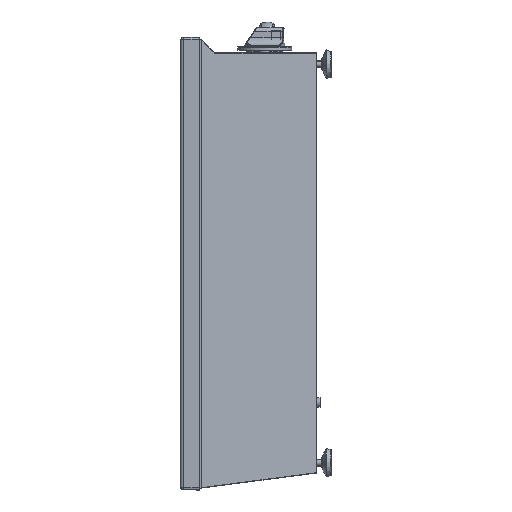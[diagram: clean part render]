
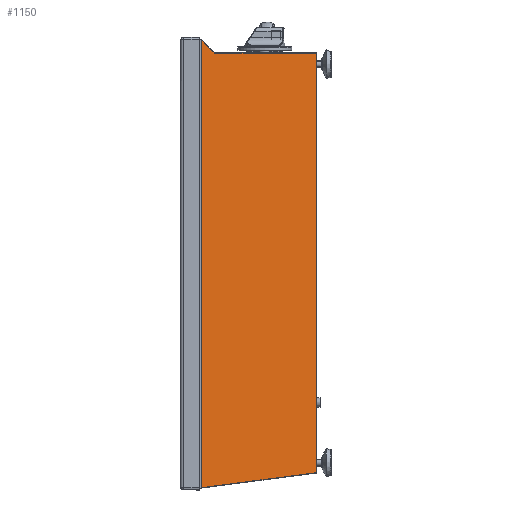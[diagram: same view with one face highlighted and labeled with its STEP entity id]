
A CAD part, left-side view. The second image highlights one B-rep face of the part: STEP entity #1150.
In plain terms, the highlighted planar face has unit normal (-0.992, -0.13, 0) by its records, which use the part's own axes.
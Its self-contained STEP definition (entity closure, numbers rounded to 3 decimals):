
#154 = CARTESIAN_POINT ( 'NONE',  ( -597.428, -24.545, 296.172 ) ) ;
#648 = CARTESIAN_POINT ( 'NONE',  ( -594.968, -43.308, 279. ) ) ;
#1150 = ADVANCED_FACE ( 'NONE', ( #7733 ), #34783, .F. ) ;
#1168 = CARTESIAN_POINT ( 'NONE',  ( -577.508, -176.437, -277.012 ) ) ;
#2639 = EDGE_CURVE ( 'NONE', #25813, #4653, #7100, .T. ) ;
#3945 = AXIS2_PLACEMENT_3D ( 'NONE', #18771, #5218, #21273 ) ;
#4653 = VERTEX_POINT ( 'NONE', #12017 ) ;
#4973 = CARTESIAN_POINT ( 'NONE',  ( -577.5, -176.5, 279. ) ) ;
#5174 = VECTOR ( 'NONE', #26218, 1000. ) ;
#5218 = DIRECTION ( 'NONE',  ( 0.992, 0.13, 0. ) ) ;
#5543 = CARTESIAN_POINT ( 'NONE',  ( -597.5, -24., 296.439 ) ) ;
#7100 = LINE ( 'NONE', #1168, #5174 ) ;
#7147 = VECTOR ( 'NONE', #29396, 1000. ) ;
#7164 = CARTESIAN_POINT ( 'NONE',  ( -597.449, -24.388, -296.953 ) ) ;
#7698 = DIRECTION ( 'NONE',  ( -0.13, 0.992, 0. ) ) ;
#7733 = FACE_OUTER_BOUND ( 'NONE', #9361, .T. ) ;
#7884 = CARTESIAN_POINT ( 'NONE',  ( -597.364, -25.039, 295.818 ) ) ;
#8184 = EDGE_CURVE ( 'NONE', #15962, #8442, #34628, .T. ) ;
#8442 = VERTEX_POINT ( 'NONE', #28628 ) ;
#9361 = EDGE_LOOP ( 'NONE', ( #33054, #21199, #30380, #13108, #31666, #25293, #17441, #34679 ) ) ;
#9616 =( BOUNDED_CURVE ( )  B_SPLINE_CURVE ( 3, ( #34213, #23409, #34399, #9698 ),
 .UNSPECIFIED., .F., .T. ) 
 B_SPLINE_CURVE_WITH_KNOTS ( ( 4, 4 ),
 ( 1.571, 2.356 ),
 .UNSPECIFIED. ) 
 CURVE ( )  GEOMETRIC_REPRESENTATION_ITEM ( )  RATIONAL_B_SPLINE_CURVE ( ( 1., 0.949, 0.949, 1. ) ) 
 REPRESENTATION_ITEM ( '' )  );
#9698 = CARTESIAN_POINT ( 'NONE',  ( -595.292, -40.833, 280.025 ) ) ;
#9926 = VERTEX_POINT ( 'NONE', #648 ) ;
#11545 = EDGE_CURVE ( 'NONE', #9926, #30027, #9616, .T. ) ;
#12017 = CARTESIAN_POINT ( 'NONE',  ( -577.5, -176.5, -277.004 ) ) ;
#12967 = VECTOR ( 'NONE', #34983, 1000. ) ;
#13108 = ORIENTED_EDGE ( 'NONE', *, *, #13590, .T. ) ;
#13138 = LINE ( 'NONE', #18920, #16334 ) ;
#13590 = EDGE_CURVE ( 'NONE', #4653, #34415, #13138, .T. ) ;
#15471 = EDGE_CURVE ( 'NONE', #30027, #27098, #20929, .T. ) ;
#15962 = VERTEX_POINT ( 'NONE', #30199 ) ;
#16334 = VECTOR ( 'NONE', #35121, 1000. ) ;
#16376 = CARTESIAN_POINT ( 'NONE',  ( -597.307, -25.469, 295.389 ) ) ;
#16430 = VECTOR ( 'NONE', #7698, 1000. ) ;
#16436 = CARTESIAN_POINT ( 'NONE',  ( -597.449, -24.388, -296.953 ) ) ;
#17441 = ORIENTED_EDGE ( 'NONE', *, *, #15471, .T. ) ;
#18736 = LINE ( 'NONE', #26639, #16430 ) ;
#18771 = CARTESIAN_POINT ( 'NONE',  ( -577.5, -176.5, -297.5 ) ) ;
#18920 = CARTESIAN_POINT ( 'NONE',  ( -577.5, -176.5, 279.5 ) ) ;
#20929 = LINE ( 'NONE', #34075, #7147 ) ;
#21199 = ORIENTED_EDGE ( 'NONE', *, *, #32426, .T. ) ;
#21273 = DIRECTION ( 'NONE',  ( -0.13, 0.992, 0. ) ) ;
#22334 = EDGE_CURVE ( 'NONE', #27098, #15962, #25274, .T. ) ;
#23044 = CARTESIAN_POINT ( 'NONE',  ( -595.292, -40.833, 280.025 ) ) ;
#23409 = CARTESIAN_POINT ( 'NONE',  ( -595.091, -42.367, 279. ) ) ;
#23945 = CARTESIAN_POINT ( 'NONE',  ( -597.5, -24., -296.99 ) ) ;
#25274 =( BOUNDED_CURVE ( )  B_SPLINE_CURVE ( 3, ( #16376, #7884, #154, #5543 ),
 .UNSPECIFIED., .F., .T. ) 
 B_SPLINE_CURVE_WITH_KNOTS ( ( 4, 4 ),
 ( 0.785, 1.115 ),
 .UNSPECIFIED. ) 
 CURVE ( )  GEOMETRIC_REPRESENTATION_ITEM ( )  RATIONAL_B_SPLINE_CURVE ( ( 1., 0.991, 0.991, 1. ) ) 
 REPRESENTATION_ITEM ( '' )  );
#25293 = ORIENTED_EDGE ( 'NONE', *, *, #11545, .T. ) ;
#25813 = VERTEX_POINT ( 'NONE', #16436 ) ;
#26218 = DIRECTION ( 'NONE',  ( 0.129, -0.983, 0.129 ) ) ;
#26639 = CARTESIAN_POINT ( 'NONE',  ( -594.976, -43.243, 279. ) ) ;
#27020 = CARTESIAN_POINT ( 'NONE',  ( -597.307, -25.469, 295.389 ) ) ;
#27098 = VERTEX_POINT ( 'NONE', #27020 ) ;
#28628 = CARTESIAN_POINT ( 'NONE',  ( -597.5, -24., -296.99 ) ) ;
#29396 = DIRECTION ( 'NONE',  ( -0.092, 0.704, 0.704 ) ) ;
#29517 = CARTESIAN_POINT ( 'NONE',  ( -597.466, -24.26, -296.97 ) ) ;
#30027 = VERTEX_POINT ( 'NONE', #23044 ) ;
#30123 = EDGE_CURVE ( 'NONE', #34415, #9926, #18736, .T. ) ;
#30199 = CARTESIAN_POINT ( 'NONE',  ( -597.5, -24., 296.439 ) ) ;
#30380 = ORIENTED_EDGE ( 'NONE', *, *, #2639, .T. ) ;
#31666 = ORIENTED_EDGE ( 'NONE', *, *, #30123, .T. ) ;
#31745 = CARTESIAN_POINT ( 'NONE',  ( -597.5, -24., -294.475 ) ) ;
#32426 = EDGE_CURVE ( 'NONE', #8442, #25813, #34612, .T. ) ;
#33054 = ORIENTED_EDGE ( 'NONE', *, *, #8184, .T. ) ;
#34075 = CARTESIAN_POINT ( 'NONE',  ( -597.311, -25.439, 295.419 ) ) ;
#34213 = CARTESIAN_POINT ( 'NONE',  ( -594.968, -43.308, 279. ) ) ;
#34399 = CARTESIAN_POINT ( 'NONE',  ( -595.205, -41.498, 279.36 ) ) ;
#34415 = VERTEX_POINT ( 'NONE', #4973 ) ;
#34612 =( BOUNDED_CURVE ( )  B_SPLINE_CURVE ( 3, ( #23945, #34928, #29517, #7164 ),
 .UNSPECIFIED., .F., .T. ) 
 B_SPLINE_CURVE_WITH_KNOTS ( ( 4, 4 ),
 ( 4.772, 4.843 ),
 .UNSPECIFIED. ) 
 CURVE ( )  GEOMETRIC_REPRESENTATION_ITEM ( )  RATIONAL_B_SPLINE_CURVE ( ( 1., 1., 1., 1. ) ) 
 REPRESENTATION_ITEM ( '' )  );
#34628 = LINE ( 'NONE', #31745, #12967 ) ;
#34679 = ORIENTED_EDGE ( 'NONE', *, *, #22334, .T. ) ;
#34783 = PLANE ( 'NONE',  #3945 ) ;
#34928 = CARTESIAN_POINT ( 'NONE',  ( -597.483, -24.13, -296.983 ) ) ;
#34983 = DIRECTION ( 'NONE',  ( 0., 0., -1. ) ) ;
#35121 = DIRECTION ( 'NONE',  ( 0., 0., 1. ) ) ;
